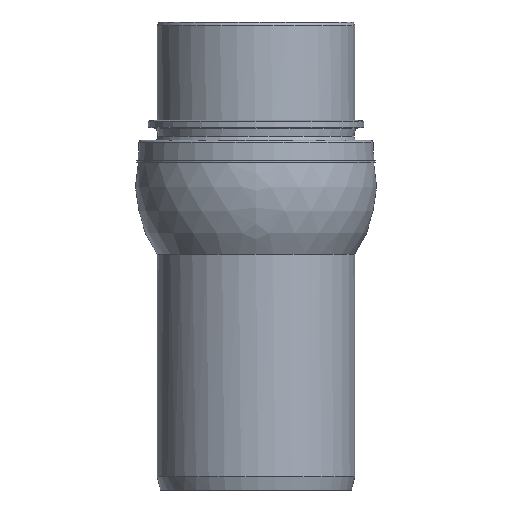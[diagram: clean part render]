
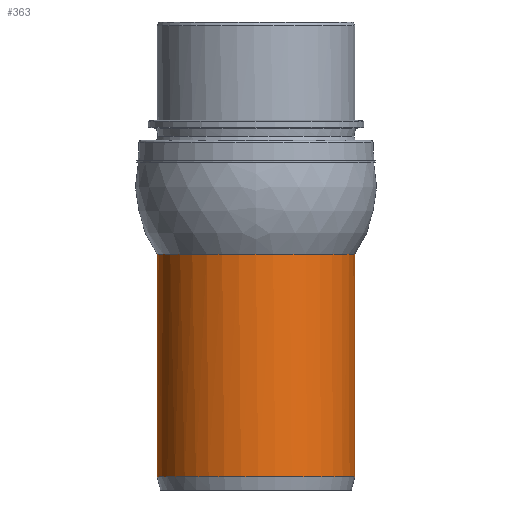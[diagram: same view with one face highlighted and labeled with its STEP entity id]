
A CAD part, front view. The second image highlights one B-rep face of the part: STEP entity #363.
In plain terms, the highlighted cylindrical face has radius 55.2 mm (diameter 110.4 mm), a full revolution.
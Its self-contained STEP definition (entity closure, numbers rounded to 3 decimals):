
#40=CYLINDRICAL_SURFACE('',#441,55.2);
#66=FACE_BOUND('',#150,.T.);
#95=FACE_OUTER_BOUND('',#149,.T.);
#149=EDGE_LOOP('',(#294));
#150=EDGE_LOOP('',(#295));
#179=CIRCLE('',#434,55.2);
#184=CIRCLE('',#442,55.2);
#208=VERTEX_POINT('',#633);
#213=VERTEX_POINT('',#646);
#237=EDGE_CURVE('',#208,#208,#179,.T.);
#242=EDGE_CURVE('',#213,#213,#184,.T.);
#294=ORIENTED_EDGE('',*,*,#237,.T.);
#295=ORIENTED_EDGE('',*,*,#242,.F.);
#363=ADVANCED_FACE('',(#95,#66),#40,.T.);
#434=AXIS2_PLACEMENT_3D('',#634,#539,#540);
#441=AXIS2_PLACEMENT_3D('',#645,#553,#554);
#442=AXIS2_PLACEMENT_3D('',#647,#555,#556);
#539=DIRECTION('center_axis',(0.,0.,
-1.));
#540=DIRECTION('ref_axis',(1.,0.,0.));
#553=DIRECTION('center_axis',(0.,0.,
-1.));
#554=DIRECTION('ref_axis',(1.,0.,0.));
#555=DIRECTION('center_axis',(0.,0.,
-1.));
#556=DIRECTION('ref_axis',(1.,0.,0.));
#633=CARTESIAN_POINT('',(-55.2,0.,-38.413));
#634=CARTESIAN_POINT('Origin',(0.,0.,
-38.413));
#645=CARTESIAN_POINT('Origin',(0.,0.,
-72.65));
#646=CARTESIAN_POINT('',(-55.2,0.,-162.536));
#647=CARTESIAN_POINT('Origin',(0.,0.,
-162.536));
